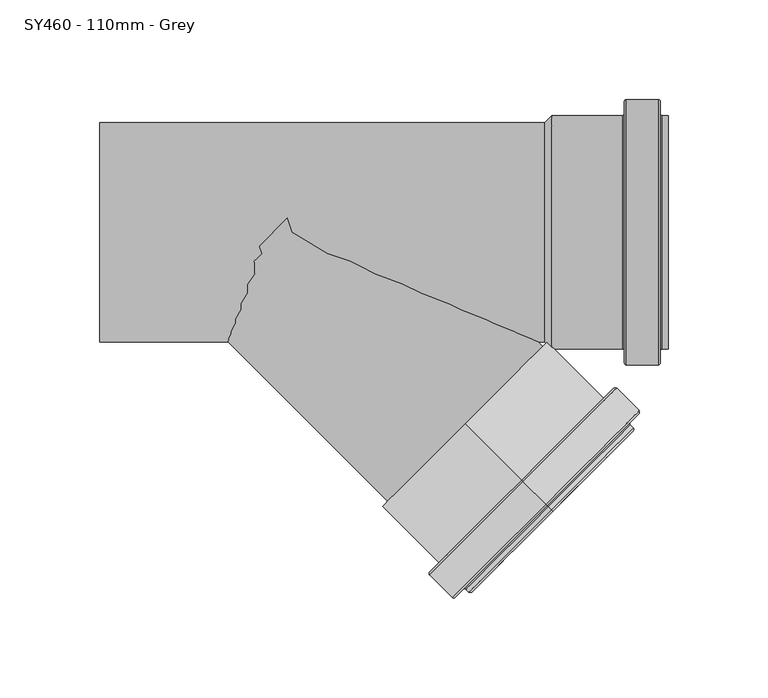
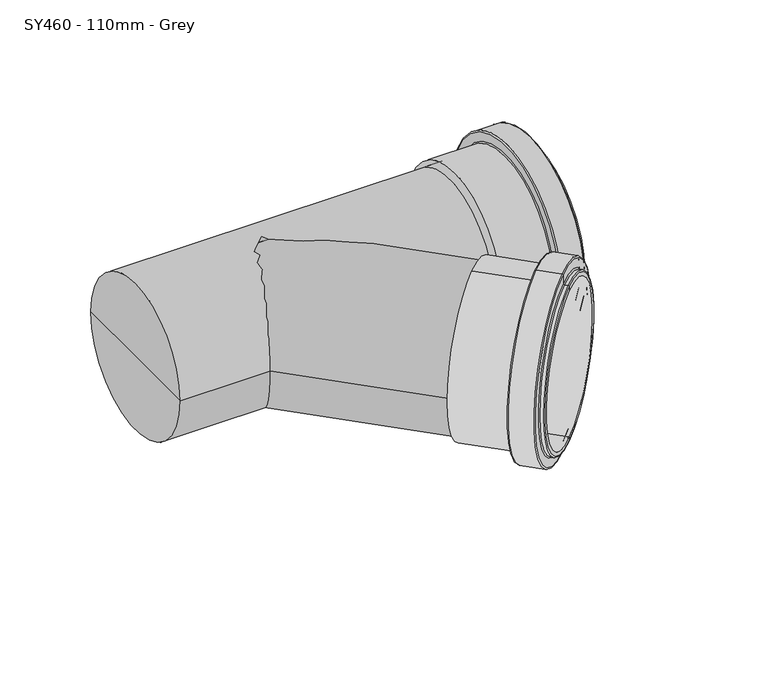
"""IFC4 building model written with IfcOpenShell, lengths in millimetres: pipe fitting geometry, MarleyPlumbingAndDrainage_PipeFitting_EqualBranch45PushFit : SY460 - 110mm - Grey."""

from ifc_helpers import new_model, si_unit, point, frame, origin, origin_2d, place, context, project, spatial, polyline, circle_curve, ellipse_curve, trimmed, segment, composite_curve, outline, extrude, source, transform, mapped, element, save
from ifc_brep_helpers import plane_surface, cylinder_surface, revolved_surface, advanced_brep


def sy460_110mm_grey_fb489c11(model_context):
    return source(origin(), model_context, "Body", "SolidModel", [
        advanced_brep(
        [(81.3411404, -96.1665222, -58.5), (81.3411404, -96.1665222, 58.5), (81.3411404, -96.1665222, 55.0), (81.3411404, -96.1665222, -55.0), (109.6254117, -124.4507935, -58.5), (109.6254117, -124.4507935, 58.5), (109.6254117, -124.4507935, -65.5), (109.6254117, -124.4507935, 65.5), (121.6462269, -136.4716088, -66.5), (121.6462269, -136.4716088, 66.5), (110.3325184, -125.1579003, 66.5), (110.3325184, -125.1579003, -66.5), (122.3533337, -137.1787156, -59.5), (122.3533337, -137.1787156, 59.5), (122.3533337, -137.1787156, 65.5), (122.3533337, -137.1787156, -65.5), (124.4746541, -139.3000359, -58.5), (124.4746541, -139.3000359, 58.5), (123.0604405, -137.8858223, 58.5), (123.0604405, -137.8858223, -58.5), (125.1817609, -140.0071427, -55.0), (125.1817609, -140.0071427, 55.0), (125.1817609, -140.0071427, 57.5), (125.1817609, -140.0071427, -57.5)],
        [
            (0, 1, circle_curve(frame((81.3411404, -96.1665222, 0.0), z_axis=(-0.7071067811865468, 0.7071067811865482, 0.0), x_axis=(0.0, 0.0, 1.0000000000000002)), 58.5)),
            (1, 2),
            (2, 3, circle_curve(frame((81.3411404, -96.1665222, 0.0), z_axis=(0.7071067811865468, -0.7071067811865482, 0.0), x_axis=(0.0, 0.0, 1.0000000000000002)), 55.0)),
            (3, 0),
            (1, 0, circle_curve(frame((81.3411404, -96.1665222, 0.0), z_axis=(-0.7071067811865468, 0.7071067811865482, 0.0), x_axis=(0.0, 0.0, 1.0000000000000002)), 58.5)),
            (3, 2, circle_curve(frame((81.3411404, -96.1665222, 0.0), z_axis=(0.7071067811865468, -0.7071067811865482, 0.0), x_axis=(0.0, 0.0, 1.0000000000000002)), 55.0)),
            (4, 5, circle_curve(frame((109.6254117, -124.4507935, 0.0), z_axis=(-0.7071067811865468, 0.7071067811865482, 0.0), x_axis=(0.0, 0.0, 1.0000000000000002)), 58.5)),
            (5, 1),
            (0, 4),
            (5, 4, circle_curve(frame((109.6254117, -124.4507935, 0.0), z_axis=(-0.7071067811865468, 0.7071067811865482, 0.0), x_axis=(0.0, 0.0, 1.0000000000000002)), 58.5)),
            (6, 7, circle_curve(frame((109.6254117, -124.4507935, 0.0), z_axis=(-0.7071067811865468, 0.7071067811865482, 0.0), x_axis=(0.0, 0.0, 1.0000000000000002)), 65.5)),
            (7, 5),
            (4, 6),
            (7, 6, circle_curve(frame((109.6254117, -124.4507935, 0.0), z_axis=(-0.7071067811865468, 0.7071067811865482, 0.0), x_axis=(0.0, 0.0, 1.0000000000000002)), 65.5)),
            (8, 9, circle_curve(frame((121.6462269, -136.4716088, 0.0), z_axis=(-0.7071067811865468, 0.7071067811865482, 0.0), x_axis=(0.0, 0.0, 1.0000000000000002)), 66.5)),
            (9, 10),
            (10, 11, circle_curve(frame((110.3325184, -125.1579003, 0.0), z_axis=(0.7071067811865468, -0.7071067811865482, 0.0), x_axis=(0.0, 0.0, 1.0000000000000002)), 66.5)),
            (11, 8),
            (9, 8, circle_curve(frame((121.6462269, -136.4716088, 0.0), z_axis=(-0.7071067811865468, 0.7071067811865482, 0.0), x_axis=(0.0, 0.0, 1.0000000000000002)), 66.5)),
            (11, 10, circle_curve(frame((110.3325184, -125.1579003, 0.0), z_axis=(0.7071067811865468, -0.7071067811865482, 0.0), x_axis=(0.0, 0.0, 1.0000000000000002)), 66.5)),
            (12, 13, circle_curve(frame((122.3533337, -137.1787156, 0.0), z_axis=(-0.7071067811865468, 0.7071067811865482, 0.0), x_axis=(0.0, 0.0, 1.0000000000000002)), 59.5)),
            (13, 14),
            (14, 15, circle_curve(frame((122.3533337, -137.1787156, 0.0), z_axis=(0.7071067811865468, -0.7071067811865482, 0.0), x_axis=(0.0, 0.0, 1.0000000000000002)), 65.5)),
            (15, 12),
            (13, 12, circle_curve(frame((122.3533337, -137.1787156, 0.0), z_axis=(-0.7071067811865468, 0.7071067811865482, 0.0), x_axis=(0.0, 0.0, 1.0000000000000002)), 59.5)),
            (15, 14, circle_curve(frame((122.3533337, -137.1787156, 0.0), z_axis=(0.7071067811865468, -0.7071067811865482, 0.0), x_axis=(0.0, 0.0, 1.0000000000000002)), 65.5)),
            (16, 17, circle_curve(frame((124.4746541, -139.3000359, 0.0), z_axis=(-0.7071067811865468, 0.7071067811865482, 0.0), x_axis=(0.0, 0.0, 1.0000000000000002)), 58.5)),
            (17, 18),
            (18, 19, circle_curve(frame((123.0604405, -137.8858223, 0.0), z_axis=(0.7071067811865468, -0.7071067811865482, 0.0), x_axis=(0.0, 0.0, 1.0000000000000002)), 58.5)),
            (19, 16),
            (17, 16, circle_curve(frame((124.4746541, -139.3000359, 0.0), z_axis=(-0.7071067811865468, 0.7071067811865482, 0.0), x_axis=(0.0, 0.0, 1.0000000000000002)), 58.5)),
            (19, 18, circle_curve(frame((123.0604405, -137.8858223, 0.0), z_axis=(0.7071067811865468, -0.7071067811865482, 0.0), x_axis=(0.0, 0.0, 1.0000000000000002)), 58.5)),
            (20, 21, circle_curve(frame((125.1817609, -140.0071427, 0.0), z_axis=(-0.7071067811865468, 0.7071067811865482, 0.0), x_axis=(0.0, 0.0, 1.0000000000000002)), 55.0)),
            (21, 22),
            (22, 23, circle_curve(frame((125.1817609, -140.0071427, 0.0), z_axis=(0.7071067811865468, -0.7071067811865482, 0.0), x_axis=(0.0, 0.0, 1.0000000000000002)), 57.5)),
            (23, 20),
            (21, 20, circle_curve(frame((125.1817609, -140.0071427, 0.0), z_axis=(-0.7071067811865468, 0.7071067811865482, 0.0), x_axis=(0.0, 0.0, 1.0000000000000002)), 55.0)),
            (23, 22, circle_curve(frame((125.1817609, -140.0071427, 0.0), z_axis=(0.7071067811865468, -0.7071067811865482, 0.0), x_axis=(0.0, 0.0, 1.0000000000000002)), 57.5)),
            (2, 21),
            (20, 3),
            (10, 7, circle_curve(frame((110.3325184, -125.1579003, 65.5), z_axis=(-0.7071067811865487, -0.7071067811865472, 0.0), x_axis=(0.4999999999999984, -0.4999999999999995, 0.7071067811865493)), 1.0)),
            (6, 11, circle_curve(frame((110.3325184, -125.1579003, -65.5), z_axis=(-0.7071067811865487, -0.7071067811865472, 0.0), x_axis=(0.5000000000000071, -0.5000000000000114, -0.7071067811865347)), 1.0)),
            (14, 9, circle_curve(frame((121.6462269, -136.4716088, 65.5), z_axis=(-0.7071067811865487, -0.7071067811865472, 0.0), x_axis=(0.4999999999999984, -0.4999999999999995, 0.7071067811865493)), 1.0)),
            (8, 15, circle_curve(frame((121.6462269, -136.4716088, -65.5), z_axis=(-0.7071067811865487, -0.7071067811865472, 0.0), x_axis=(0.5000000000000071, -0.5000000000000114, -0.7071067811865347)), 1.0)),
            (18, 13, circle_curve(frame((123.0604405, -137.8858223, 59.5), z_axis=(0.7071067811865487, 0.7071067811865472, 0.0), x_axis=(0.4999999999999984, -0.4999999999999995, 0.7071067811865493)), 1.0)),
            (12, 19, circle_curve(frame((123.0604405, -137.8858223, -59.5), z_axis=(0.7071067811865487, 0.7071067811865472, 0.0), x_axis=(0.5000000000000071, -0.5000000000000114, -0.7071067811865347)), 1.0)),
            (22, 17, circle_curve(frame((124.4746541, -139.3000359, 57.5), z_axis=(-0.7071067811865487, -0.7071067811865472, 0.0), x_axis=(0.4999999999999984, -0.4999999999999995, 0.7071067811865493)), 1.0)),
            (16, 23, circle_curve(frame((124.4746541, -139.3000359, -57.5), z_axis=(-0.7071067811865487, -0.7071067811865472, 0.0), x_axis=(0.5000000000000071, -0.5000000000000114, -0.7071067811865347)), 1.0)),
        ],
        [
            plane_surface(frame((81.3411404, -96.1665222, 0.0), z_axis=(-0.7071067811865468, 0.7071067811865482, 0.0), x_axis=(0.0, 0.0, 1.0))),
            cylinder_surface(frame((159.8299931, -174.655375, 0.0), z_axis=(0.7071067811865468, -0.7071067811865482, 0.0), x_axis=(0.0, 0.0, 1.0000000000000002)), 58.5),
            plane_surface(frame((109.6254117, -124.4507935, 0.0), z_axis=(-0.7071067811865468, 0.7071067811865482, 0.0), x_axis=(0.0, 0.0, 1.0))),
            cylinder_surface(frame((159.8299931, -174.655375, 0.0), z_axis=(0.7071067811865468, -0.7071067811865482, 0.0), x_axis=(0.0, 0.0, 1.0000000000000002)), 66.5),
            plane_surface(frame((122.3533337, -137.1787156, 0.0), z_axis=(0.7071067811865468, -0.7071067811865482, 0.0), x_axis=(0.0, 0.0, 1.0))),
            plane_surface(frame((125.1817609, -140.0071427, 0.0), z_axis=(0.7071067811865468, -0.7071067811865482, 0.0), x_axis=(0.0, 0.0, 1.0))),
            revolved_surface(polyline([(125.18176085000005, -140.00714274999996, 55.000000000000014), (81.34114035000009, -96.16652224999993, 55.000000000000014)]), (159.8299931, -174.655375, 0.0), (0.7071067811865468, -0.7071067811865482, 0.0)),
            revolved_surface(trimmed(ellipse_curve(frame((110.3325184, -125.1579003, 65.5), z_axis=(0.7071067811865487, 0.7071067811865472, 0.0), x_axis=(0.4999999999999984, -0.4999999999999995, 0.7071067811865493)), 1.0, 1.0), [point((109.6254117, -124.4507935, 65.5))], [point((110.3325184, -125.1579003, 66.5))], True, "CARTESIAN"), (159.8299931, -174.655375, 0.0), (0.7071067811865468, -0.7071067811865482, 0.0)),
            revolved_surface(trimmed(ellipse_curve(frame((110.3325184, -125.1579003, 65.5), z_axis=(0.7071067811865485, 0.707106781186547, 0.0), x_axis=(0.4999999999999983, -0.4999999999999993, 0.7071067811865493)), 1.0, 1.0), [point((109.6254117, -124.4507935, 65.5))], [point((110.3325184, -125.1579003, 66.5))], True, "CARTESIAN"), (159.8299931, -174.655375, 0.0), (0.7071067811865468, -0.7071067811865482, 0.0)),
            revolved_surface(trimmed(ellipse_curve(frame((121.6462269, -136.4716088, 65.5), z_axis=(0.7071067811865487, 0.7071067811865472, 0.0), x_axis=(0.4999999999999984, -0.4999999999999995, 0.7071067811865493)), 1.0, 1.0), [point((121.6462269, -136.4716088, 66.5))], [point((122.3533337, -137.1787156, 65.5))], True, "CARTESIAN"), (159.8299931, -174.655375, 0.0), (0.7071067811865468, -0.7071067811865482, 0.0)),
            revolved_surface(trimmed(ellipse_curve(frame((121.6462269, -136.4716088, 65.5), z_axis=(0.7071067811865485, 0.707106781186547, 0.0), x_axis=(0.4999999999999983, -0.4999999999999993, 0.7071067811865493)), 1.0, 1.0), [point((121.6462269, -136.4716088, 66.5))], [point((122.3533337, -137.1787156, 65.5))], True, "CARTESIAN"), (159.8299931, -174.655375, 0.0), (0.7071067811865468, -0.7071067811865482, 0.0)),
            revolved_surface(trimmed(ellipse_curve(frame((123.0604405, -137.8858223, 59.5), z_axis=(-0.7071067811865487, -0.7071067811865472, 0.0), x_axis=(0.4999999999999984, -0.4999999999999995, 0.7071067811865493)), 1.0, 1.0), [point((122.3533337, -137.1787156, 59.5))], [point((123.0604405, -137.8858223, 58.5))], True, "CARTESIAN"), (159.8299931, -174.655375, 0.0), (0.7071067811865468, -0.7071067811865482, 0.0)),
            revolved_surface(trimmed(ellipse_curve(frame((123.0604405, -137.8858223, 59.5), z_axis=(-0.7071067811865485, -0.707106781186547, 0.0), x_axis=(0.4999999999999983, -0.4999999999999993, 0.7071067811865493)), 1.0, 1.0), [point((122.3533337, -137.1787156, 59.5))], [point((123.0604405, -137.8858223, 58.5))], True, "CARTESIAN"), (159.8299931, -174.655375, 0.0), (0.7071067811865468, -0.7071067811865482, 0.0)),
            revolved_surface(trimmed(ellipse_curve(frame((124.4746541, -139.3000359, 57.5), z_axis=(0.7071067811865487, 0.7071067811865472, 0.0), x_axis=(0.4999999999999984, -0.4999999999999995, 0.7071067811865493)), 1.0, 1.0), [point((124.4746541, -139.3000359, 58.5))], [point((125.1817609, -140.0071427, 57.5))], True, "CARTESIAN"), (159.8299931, -174.655375, 0.0), (0.7071067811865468, -0.7071067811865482, 0.0)),
            revolved_surface(trimmed(ellipse_curve(frame((124.4746541, -139.3000359, 57.5), z_axis=(0.7071067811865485, 0.707106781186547, 0.0), x_axis=(0.4999999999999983, -0.4999999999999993, 0.7071067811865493)), 1.0, 1.0), [point((124.4746541, -139.3000359, 58.5))], [point((125.1817609, -140.0071427, 57.5))], True, "CARTESIAN"), (159.8299931, -174.655375, 0.0), (0.7071067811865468, -0.7071067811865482, 0.0)),
        ],
        [
            (0, [[1, 2, 3, 4]]),
            (0, [[5, -4, 6, -2]]),
            (1, [[7, 8, -1, 9]]),
            (1, [[10, -9, -5, -8]]),
            (2, [[11, 12, -7, 13]]),
            (2, [[14, -13, -10, -12]]),
            (3, [[15, 16, 17, 18]]),
            (3, [[19, -18, 20, -16]]),
            (4, [[21, 22, 23, 24]]),
            (4, [[25, -24, 26, -22]]),
            (1, [[27, 28, 29, 30]]),
            (1, [[31, -30, 32, -28]]),
            (5, [[33, 34, 35, 36]]),
            (5, [[37, -36, 38, -34]]),
            (6, [[-3, 39, -33, 40]]),
            (6, [[-6, -40, -37, -39]]),
            (7, [[-17, 41, -11, 42]]),
            (8, [[-20, -42, -14, -41]]),
            (9, [[-23, 43, -15, 44]]),
            (10, [[-26, -44, -19, -43]]),
            (11, [[-29, 45, -21, 46]]),
            (12, [[-32, -46, -25, -45]]),
            (13, [[-35, 47, -27, 48]]),
            (14, [[-38, -48, -31, -47]]),
        ],
    ),
        extrude(outline(composite_curve([segment(trimmed(circle_curve(origin_2d(), 55.0), [point((0.0, -55.0))], [point((0.0, 55.0))], False, "CARTESIAN"), True, "CONTINUOUS"), segment(trimmed(circle_curve(origin_2d(), 55.0), [point((0.0, 55.0))], [point((0.0, -55.0))], False, "CARTESIAN"), True, "CONTINUOUS")], self_intersect=False)), frame((81.3411404, -96.1665222, 0.0), z_axis=(-0.7071067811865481, 0.7071067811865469, 0.0), x_axis=(0.0, 0.0, 1.0)), (0.0, 0.0, 1.0), 136.0),
        advanced_brep(
        [(180.1746182, -58.5, 0.0), (180.1746182, 58.5, 0.0), (183.1746182, 58.5, 0.0), (183.1746182, -58.5, 0.0), (179.1746182, -65.5, 0.0), (179.1746182, 65.5, 0.0), (179.1746182, 59.5, 0.0), (179.1746182, -59.5, 0.0), (162.1746182, -66.5, 0.0), (162.1746182, 66.5, 0.0), (178.1746182, 66.5, 0.0), (178.1746182, -66.5, 0.0), (161.1746182, -59.5, 0.0), (161.1746182, 59.5, 0.0), (161.1746182, 65.5, 0.0), (161.1746182, -65.5, 0.0), (124.6746182, -58.5, 0.0), (124.6746182, 58.5, 0.0), (160.1746182, 58.5, 0.0), (160.1746182, -58.5, 0.0), (121.1746182, -55.0, 0.0), (121.1746182, 55.0, 0.0), (-101.8253818, -55.0, 0.0), (-101.8253818, 55.0, 0.0), (-101.8253818, 0.0, 0.0), (124.6746182, -55.0, 0.0), (124.6746182, 55.0, 0.0), (124.6746182, 0.0, 0.0), (183.1746182, -55.0, 0.0), (183.1746182, 55.0, 0.0)],
        [
            (0, 1, circle_curve(frame((180.1746182, 0.0, 0.0), z_axis=(1.0, 0.0, 0.0), x_axis=(0.0, 1.0, 0.0)), 58.5)),
            (1, 2),
            (2, 3, circle_curve(frame((183.1746182, 0.0, 0.0), z_axis=(-1.0, 0.0, 0.0), x_axis=(0.0, 1.0, 0.0)), 58.5)),
            (3, 0),
            (1, 0, circle_curve(frame((180.1746182, 0.0, 0.0), z_axis=(1.0, 0.0, 0.0), x_axis=(0.0, 1.0, 0.0)), 58.5)),
            (3, 2, circle_curve(frame((183.1746182, 0.0, 0.0), z_axis=(-1.0, 0.0, 0.0), x_axis=(0.0, 1.0, 0.0)), 58.5)),
            (4, 5, circle_curve(frame((179.1746182, 0.0, 0.0), z_axis=(1.0, 0.0, 0.0), x_axis=(0.0, 1.0, 0.0)), 65.5)),
            (5, 6),
            (6, 7, circle_curve(frame((179.1746182, 0.0, 0.0), z_axis=(-1.0, 0.0, 0.0), x_axis=(0.0, 1.0, 0.0)), 59.5)),
            (7, 4),
            (5, 4, circle_curve(frame((179.1746182, 0.0, 0.0), z_axis=(1.0, 0.0, 0.0), x_axis=(0.0, 1.0, 0.0)), 65.5)),
            (7, 6, circle_curve(frame((179.1746182, 0.0, 0.0), z_axis=(-1.0, 0.0, 0.0), x_axis=(0.0, 1.0, 0.0)), 59.5)),
            (8, 9, circle_curve(frame((162.1746182, 0.0, 0.0), z_axis=(1.0, 0.0, 0.0), x_axis=(0.0, 1.0, 0.0)), 66.5)),
            (9, 10),
            (10, 11, circle_curve(frame((178.1746182, 0.0, 0.0), z_axis=(-1.0, 0.0, 0.0), x_axis=(0.0, 1.0, 0.0)), 66.5)),
            (11, 8),
            (9, 8, circle_curve(frame((162.1746182, 0.0, 0.0), z_axis=(1.0, 0.0, 0.0), x_axis=(0.0, 1.0, 0.0)), 66.5)),
            (11, 10, circle_curve(frame((178.1746182, 0.0, 0.0), z_axis=(-1.0, 0.0, 0.0), x_axis=(0.0, 1.0, 0.0)), 66.5)),
            (12, 13, circle_curve(frame((161.1746182, 0.0, 0.0), z_axis=(1.0, 0.0, 0.0), x_axis=(0.0, 1.0, 0.0)), 59.5)),
            (13, 14),
            (14, 15, circle_curve(frame((161.1746182, 0.0, 0.0), z_axis=(-1.0, 0.0, 0.0), x_axis=(0.0, 1.0, 0.0)), 65.5)),
            (15, 12),
            (13, 12, circle_curve(frame((161.1746182, 0.0, 0.0), z_axis=(1.0, 0.0, 0.0), x_axis=(0.0, 1.0, 0.0)), 59.5)),
            (15, 14, circle_curve(frame((161.1746182, 0.0, 0.0), z_axis=(-1.0, 0.0, 0.0), x_axis=(0.0, 1.0, 0.0)), 65.5)),
            (16, 17, circle_curve(frame((124.6746182, 0.0, 0.0), z_axis=(1.0, 0.0, 0.0), x_axis=(0.0, 1.0, 0.0)), 58.5)),
            (17, 18),
            (18, 19, circle_curve(frame((160.1746182, 0.0, 0.0), z_axis=(-1.0, 0.0, 0.0), x_axis=(0.0, 1.0, 0.0)), 58.5)),
            (19, 16),
            (17, 16, circle_curve(frame((124.6746182, 0.0, 0.0), z_axis=(1.0, 0.0, 0.0), x_axis=(0.0, 1.0, 0.0)), 58.5)),
            (19, 18, circle_curve(frame((160.1746182, 0.0, 0.0), z_axis=(-1.0, 0.0, 0.0), x_axis=(0.0, 1.0, 0.0)), 58.5)),
            (20, 21, circle_curve(frame((121.1746182, 0.0, 0.0), z_axis=(1.0, 0.0, 0.0), x_axis=(0.0, 1.0, 0.0)), 55.0)),
            (21, 17),
            (16, 20),
            (21, 20, circle_curve(frame((121.1746182, 0.0, 0.0), z_axis=(1.0, 0.0, 0.0), x_axis=(0.0, 1.0, 0.0)), 55.0)),
            (22, 23, circle_curve(frame((-101.8253818, 0.0, 0.0), z_axis=(1.0, 0.0, 0.0), x_axis=(0.0, 1.0, 0.0)), 55.0)),
            (23, 21),
            (20, 22),
            (23, 22, circle_curve(frame((-101.8253818, 0.0, 0.0), z_axis=(1.0, 0.0, 0.0), x_axis=(0.0, 1.0, 0.0)), 55.0)),
            (24, 23),
            (22, 24),
            (25, 26, circle_curve(frame((124.6746182, 0.0, 0.0), z_axis=(1.0, 0.0, 0.0), x_axis=(0.0, 1.0, 0.0)), 55.0)),
            (26, 27),
            (27, 25),
            (26, 25, circle_curve(frame((124.6746182, 0.0, 0.0), z_axis=(1.0, 0.0, 0.0), x_axis=(0.0, 1.0, 0.0)), 55.0)),
            (28, 29, circle_curve(frame((183.1746182, 0.0, 0.0), z_axis=(1.0, 0.0, 0.0), x_axis=(0.0, 1.0, 0.0)), 55.0)),
            (29, 26),
            (25, 28),
            (29, 28, circle_curve(frame((183.1746182, 0.0, 0.0), z_axis=(1.0, 0.0, 0.0), x_axis=(0.0, 1.0, 0.0)), 55.0)),
            (2, 29),
            (28, 3),
            (6, 1, circle_curve(frame((180.1746182, 59.5, 0.0), z_axis=(0.0, 0.0, 1.0), x_axis=(1.0, 0.0, 0.0)), 1.0)),
            (0, 7, circle_curve(frame((180.1746182, -59.5, 0.0), z_axis=(0.0, 0.0, 1.0), x_axis=(1.0, 0.0, 0.0)), 1.0)),
            (10, 5, circle_curve(frame((178.1746182, 65.5, 0.0), z_axis=(0.0, 0.0, -1.0), x_axis=(1.0, 0.0, 0.0)), 1.0)),
            (4, 11, circle_curve(frame((178.1746182, -65.5, 0.0), z_axis=(0.0, 0.0, -1.0), x_axis=(1.0, 0.0, 0.0)), 1.0)),
            (14, 9, circle_curve(frame((162.1746182, 65.5, 0.0), z_axis=(0.0, 0.0, -1.0), x_axis=(1.0, 0.0, 0.0)), 1.0)),
            (8, 15, circle_curve(frame((162.1746182, -65.5, 0.0), z_axis=(0.0, 0.0, -1.0), x_axis=(1.0, 0.0, 0.0)), 1.0)),
            (18, 13, circle_curve(frame((160.1746182, 59.5, 0.0), z_axis=(0.0, 0.0, 1.0), x_axis=(1.0, 0.0, 0.0)), 1.0)),
            (12, 19, circle_curve(frame((160.1746182, -59.5, 0.0), z_axis=(0.0, 0.0, 1.0), x_axis=(1.0, 0.0, 0.0)), 1.0)),
        ],
        [
            cylinder_surface(frame((1997.0, 0.0, 0.0), z_axis=(-1.0, 0.0, 0.0), x_axis=(0.0, 1.0, 0.0)), 58.5),
            plane_surface(frame((179.1746182, 0.0, 0.0), z_axis=(1.0, 0.0, 0.0), x_axis=(0.0, 1.0, 0.0))),
            cylinder_surface(frame((1997.0, 0.0, 0.0), z_axis=(-1.0, 0.0, 0.0), x_axis=(0.0, 1.0, 0.0)), 66.5),
            plane_surface(frame((161.1746182, 0.0, 0.0), z_axis=(-1.0, 0.0, 0.0), x_axis=(0.0, 1.0, 0.0))),
            revolved_surface(polyline([(124.6746182, 58.5, 0.0), (121.1746182, 55.0, 0.0)]), (1997.0, 0.0, 0.0), (-1.0, 0.0, 0.0)),
            cylinder_surface(frame((1997.0, 0.0, 0.0), z_axis=(-1.0, 0.0, 0.0), x_axis=(0.0, 1.0, 0.0)), 55.0),
            plane_surface(frame((-101.8253818, 0.0, 0.0), z_axis=(-1.0, 0.0, 0.0), x_axis=(0.0, 1.0, 0.0))),
            plane_surface(frame((124.6746182, 0.0, 0.0), z_axis=(1.0, 0.0, 0.0), x_axis=(0.0, 1.0, 0.0))),
            revolved_surface(polyline([(124.67461819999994, 55.0, 0.0), (183.17461819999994, 55.0, 0.0)]), (1997.0, 0.0, 0.0), (-1.0, 0.0, 0.0)),
            plane_surface(frame((183.1746182, 0.0, 0.0), z_axis=(1.0, 0.0, 0.0), x_axis=(0.0, 1.0, 0.0))),
            revolved_surface(trimmed(ellipse_curve(frame((180.1746182, 59.5, 0.0), z_axis=(0.0, 0.0, -1.0), x_axis=(1.0, 0.0, 0.0)), 1.0, 1.0), [point((180.1746182, 58.5, 0.0))], [point((179.1746182, 59.5, 0.0))], True, "CARTESIAN"), (1997.0, 0.0, 0.0), (-1.0, 0.0, 0.0)),
            revolved_surface(trimmed(ellipse_curve(frame((178.1746182, 65.5, 0.0), z_axis=(0.0, 0.0, 1.0), x_axis=(1.0, 0.0, 0.0)), 1.0, 1.0), [point((179.1746182, 65.5, 0.0))], [point((178.1746182, 66.5, 0.0))], True, "CARTESIAN"), (1997.0, 0.0, 0.0), (-1.0, 0.0, 0.0)),
            revolved_surface(trimmed(ellipse_curve(frame((162.1746182, 65.5, 0.0), z_axis=(0.0, 0.0, 1.0), x_axis=(1.0, 0.0, 0.0)), 1.0, 1.0), [point((162.1746182, 66.5, 0.0))], [point((161.1746182, 65.5, 0.0))], True, "CARTESIAN"), (1997.0, 0.0, 0.0), (-1.0, 0.0, 0.0)),
            revolved_surface(trimmed(ellipse_curve(frame((160.1746182, 59.5, 0.0), z_axis=(0.0, 0.0, -1.0), x_axis=(1.0, 0.0, 0.0)), 1.0, 1.0), [point((161.1746182, 59.5, 0.0))], [point((160.1746182, 58.5, 0.0))], True, "CARTESIAN"), (1997.0, 0.0, 0.0), (-1.0, 0.0, 0.0)),
        ],
        [
            (0, [[1, 2, 3, 4]]),
            (0, [[5, -4, 6, -2]]),
            (1, [[7, 8, 9, 10]]),
            (1, [[11, -10, 12, -8]]),
            (2, [[13, 14, 15, 16]]),
            (2, [[17, -16, 18, -14]]),
            (3, [[19, 20, 21, 22]]),
            (3, [[23, -22, 24, -20]]),
            (0, [[25, 26, 27, 28]]),
            (0, [[29, -28, 30, -26]]),
            (4, [[31, 32, -25, 33]]),
            (4, [[34, -33, -29, -32]]),
            (5, [[35, 36, -31, 37]]),
            (5, [[38, -37, -34, -36]]),
            (6, [[39, -35, 40]]),
            (6, [[-40, -38, -39]]),
            (7, [[41, 42, 43]]),
            (7, [[44, -43, -42]]),
            (8, [[45, 46, -41, 47]]),
            (8, [[48, -47, -44, -46]]),
            (9, [[-3, 49, -45, 50]]),
            (9, [[-6, -50, -48, -49]]),
            (10, [[-9, 51, -1, 52]]),
            (10, [[-12, -52, -5, -51]]),
            (11, [[-15, 53, -7, 54]]),
            (11, [[-18, -54, -11, -53]]),
            (12, [[-21, 55, -13, 56]]),
            (12, [[-24, -56, -17, -55]]),
            (13, [[-27, 57, -19, 58]]),
            (13, [[-30, -58, -23, -57]]),
        ],
    ),
    ])


if __name__ == "__main__":
    model = new_model("IFC4")
    model_context = context("Model", 3, world=origin())
    ifc_project = project(units=[si_unit("LENGTHUNIT", "METRE", prefix="MILLI")], contexts=[model_context])
    site = spatial("IfcSite", under=ifc_project)
    building = spatial("IfcBuilding", under=site)
    placement = place(None, origin())
    sy460_110mm_grey_shape = sy460_110mm_grey_fb489c11(model_context)
    element("IfcPipeFitting", 1, ObjectType="MarleyPlumbingAndDrainage_PipeFitting_EqualBranch45PushFit : SY460 - 110mm - Grey", at=placement, inside=building, context=model_context, shape_type="MappedRepresentation", body=[
        mapped(sy460_110mm_grey_shape, transform((0.0, 0.0, 0.0), x_axis=(1.0, 0.0, 0.0), y_axis=(0.0, 1.0, 0.0), z_axis=(0.0, 0.0, 1.0))),
    ])
    save(model, "model.ifc")
